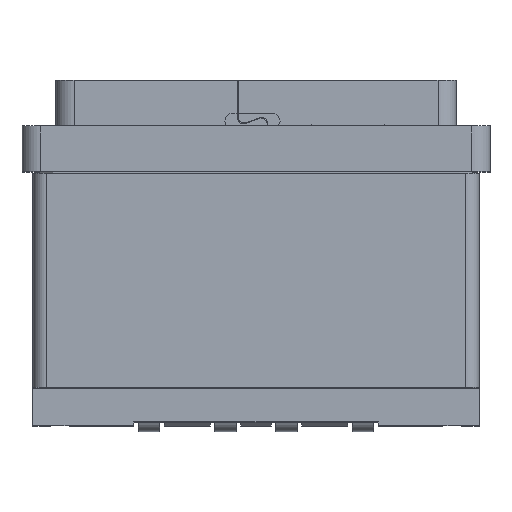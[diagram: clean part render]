
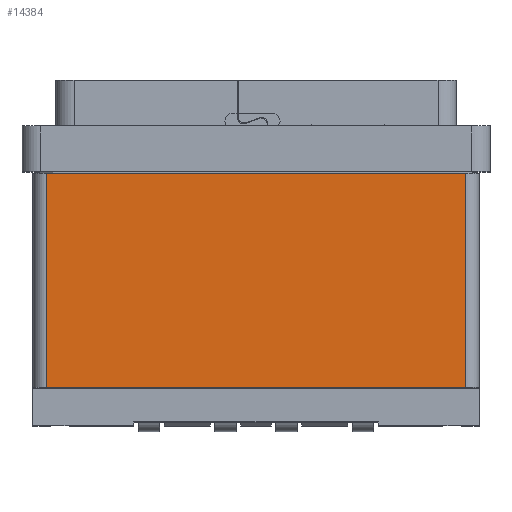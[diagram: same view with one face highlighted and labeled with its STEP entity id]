
A CAD part, top view. The second image highlights one B-rep face of the part: STEP entity #14384.
In plain terms, the highlighted planar face has unit normal (0, 0, 1).
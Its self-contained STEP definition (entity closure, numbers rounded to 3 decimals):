
#4886=DIRECTION('',(0.,-1.,0.));
#4887=VECTOR('',#4886,7.);
#4888=CARTESIAN_POINT('',(-6.85,5.9,2.64));
#4889=LINE('',#4888,#4887);
#4890=DIRECTION('',(-1.,0.,0.));
#4891=VECTOR('',#4890,13.7);
#4892=CARTESIAN_POINT('',(6.85,5.9,2.64));
#4893=LINE('',#4892,#4891);
#4894=DIRECTION('',(1.,0.,0.));
#4895=VECTOR('',#4894,13.7);
#4896=CARTESIAN_POINT('',(-6.85,-1.1,2.64));
#4897=LINE('',#4896,#4895);
#4898=DIRECTION('',(0.,1.,0.));
#4899=VECTOR('',#4898,7.);
#4900=CARTESIAN_POINT('',(6.85,-1.1,2.64));
#4901=LINE('',#4900,#4899);
#6128=CARTESIAN_POINT('',(-6.85,5.9,2.64));
#6130=VERTEX_POINT('',#6128);
#6145=CARTESIAN_POINT('',(6.85,5.9,2.64));
#6146=VERTEX_POINT('',#6145);
#6148=CARTESIAN_POINT('',(-6.85,-1.1,2.64));
#6150=VERTEX_POINT('',#6148);
#6165=CARTESIAN_POINT('',(6.85,-1.1,2.64));
#6166=VERTEX_POINT('',#6165);
#14372=CARTESIAN_POINT('',(0.,2.4,2.64));
#14373=DIRECTION('',(0.,0.,1.));
#14374=DIRECTION('',(1.,0.,0.));
#14375=AXIS2_PLACEMENT_3D('',#14372,#14373,#14374);
#14376=PLANE('',#14375);
#14377=ORIENTED_EDGE('',*,*,#14367,.F.);
#14378=ORIENTED_EDGE('',*,*,#13914,.F.);
#14380=ORIENTED_EDGE('',*,*,#14379,.F.);
#14381=ORIENTED_EDGE('',*,*,#14091,.F.);
#14382=EDGE_LOOP('',(#14377,#14378,#14380,#14381));
#14383=FACE_OUTER_BOUND('',#14382,.F.);
#14384=ADVANCED_FACE('',(#14383),#14376,.T.);
#13914=EDGE_CURVE('',#6146,#6130,#4893,.T.);
#14091=EDGE_CURVE('',#6150,#6166,#4897,.T.);
#14367=EDGE_CURVE('',#6130,#6150,#4889,.T.);
#14379=EDGE_CURVE('',#6166,#6146,#4901,.T.);
